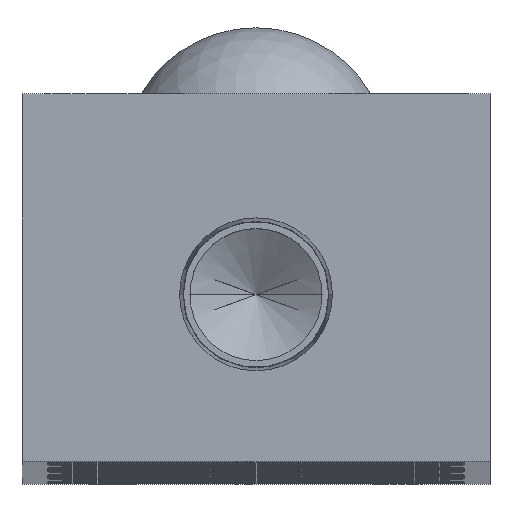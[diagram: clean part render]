
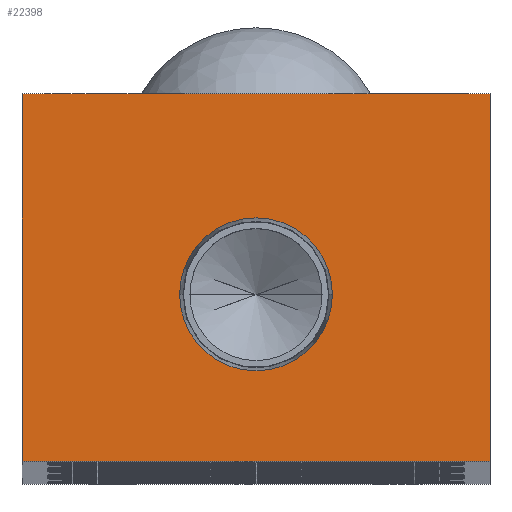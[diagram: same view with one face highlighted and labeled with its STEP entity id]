
A CAD part, top view. The second image highlights one B-rep face of the part: STEP entity #22398.
In plain terms, the highlighted planar face has unit normal (0, 0, 1).
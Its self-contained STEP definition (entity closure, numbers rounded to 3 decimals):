
#14 = DIRECTION ( 'NONE',  ( 0., -1., 0. ) ) ;
#47 = ORIENTED_EDGE ( 'NONE', *, *, #10711, .T. ) ;
#315 = CARTESIAN_POINT ( 'NONE',  ( 14., 22., 0. ) ) ;
#851 = LINE ( 'NONE', #14857, #19356 ) ;
#1156 = AXIS2_PLACEMENT_3D ( 'NONE', #10508, #23405, #12374 ) ;
#2324 = VERTEX_POINT ( 'NONE', #10560 ) ;
#2469 = DIRECTION ( 'NONE',  ( -1., 0., 0. ) ) ;
#4064 = LINE ( 'NONE', #6789, #23084 ) ;
#4609 = DIRECTION ( 'NONE',  ( 1., 0., 0. ) ) ;
#4930 = DIRECTION ( 'NONE',  ( 0., 1., 0. ) ) ;
#5321 = PLANE ( 'NONE',  #7392 ) ;
#6402 = CARTESIAN_POINT ( 'NONE',  ( 0., 10., 0. ) ) ;
#6596 = EDGE_CURVE ( 'NONE', #8711, #19631, #16440, .T. ) ;
#6789 = CARTESIAN_POINT ( 'NONE',  ( 14., 0., 0. ) ) ;
#7142 = VERTEX_POINT ( 'NONE', #13407 ) ;
#7190 = DIRECTION ( 'NONE',  ( -1., 0., 0. ) ) ;
#7392 = AXIS2_PLACEMENT_3D ( 'NONE', #23683, #18231, #7190 ) ;
#7641 = EDGE_LOOP ( 'NONE', ( #17458, #47, #15471, #8307 ) ) ;
#8243 = DIRECTION ( 'NONE',  ( 1., 0., 0. ) ) ;
#8307 = ORIENTED_EDGE ( 'NONE', *, *, #6596, .T. ) ;
#8323 = CARTESIAN_POINT ( 'NONE',  ( -14., 0., 0. ) ) ;
#8711 = VERTEX_POINT ( 'NONE', #315 ) ;
#10508 = CARTESIAN_POINT ( 'NONE',  ( 0., 10., 0. ) ) ;
#10560 = CARTESIAN_POINT ( 'NONE',  ( 14., 0., 0. ) ) ;
#10711 = EDGE_CURVE ( 'NONE', #14366, #2324, #21358, .T. ) ;
#11622 = FACE_BOUND ( 'NONE', #17098, .T. ) ;
#11940 = EDGE_CURVE ( 'NONE', #7142, #15465, #16699, .T. ) ;
#12196 = FACE_OUTER_BOUND ( 'NONE', #7641, .T. ) ;
#12305 = EDGE_CURVE ( 'NONE', #15465, #7142, #14094, .T. ) ;
#12374 = DIRECTION ( 'NONE',  ( 1., 0., 0. ) ) ;
#13261 = CARTESIAN_POINT ( 'NONE',  ( -14., 0., 0. ) ) ;
#13407 = CARTESIAN_POINT ( 'NONE',  ( -4.574, 10., 0. ) ) ;
#13840 = EDGE_CURVE ( 'NONE', #2324, #8711, #4064, .T. ) ;
#14094 = CIRCLE ( 'NONE', #16299, 4.574 ) ;
#14288 = EDGE_CURVE ( 'NONE', #19631, #14366, #851, .T. ) ;
#14366 = VERTEX_POINT ( 'NONE', #13261 ) ;
#14857 = CARTESIAN_POINT ( 'NONE',  ( -14., 0., 0. ) ) ;
#15366 = CARTESIAN_POINT ( 'NONE',  ( -14., 22., 0. ) ) ;
#15465 = VERTEX_POINT ( 'NONE', #21948 ) ;
#15471 = ORIENTED_EDGE ( 'NONE', *, *, #13840, .T. ) ;
#15740 = ORIENTED_EDGE ( 'NONE', *, *, #12305, .F. ) ;
#16299 = AXIS2_PLACEMENT_3D ( 'NONE', #6402, #19319, #8243 ) ;
#16440 = LINE ( 'NONE', #15366, #20785 ) ;
#16699 = CIRCLE ( 'NONE', #1156, 4.574 ) ;
#17098 = EDGE_LOOP ( 'NONE', ( #15740, #18264 ) ) ;
#17458 = ORIENTED_EDGE ( 'NONE', *, *, #14288, .T. ) ;
#18231 = DIRECTION ( 'NONE',  ( 0., 0., -1. ) ) ;
#18264 = ORIENTED_EDGE ( 'NONE', *, *, #11940, .F. ) ;
#19134 = CARTESIAN_POINT ( 'NONE',  ( -14., 22., 0. ) ) ;
#19319 = DIRECTION ( 'NONE',  ( 0., 0., 1. ) ) ;
#19356 = VECTOR ( 'NONE', #14, 1000. ) ;
#19631 = VERTEX_POINT ( 'NONE', #19134 ) ;
#19646 = VECTOR ( 'NONE', #4609, 1000. ) ;
#20785 = VECTOR ( 'NONE', #2469, 1000. ) ;
#21358 = LINE ( 'NONE', #8323, #19646 ) ;
#21948 = CARTESIAN_POINT ( 'NONE',  ( 4.574, 10., 0. ) ) ;
#22398 = ADVANCED_FACE ( 'NONE', ( #11622, #12196 ), #5321, .F. ) ;
#23084 = VECTOR ( 'NONE', #4930, 1000. ) ;
#23405 = DIRECTION ( 'NONE',  ( 0., 0., 1. ) ) ;
#23683 = CARTESIAN_POINT ( 'NONE',  ( 0., 0., 0. ) ) ;
